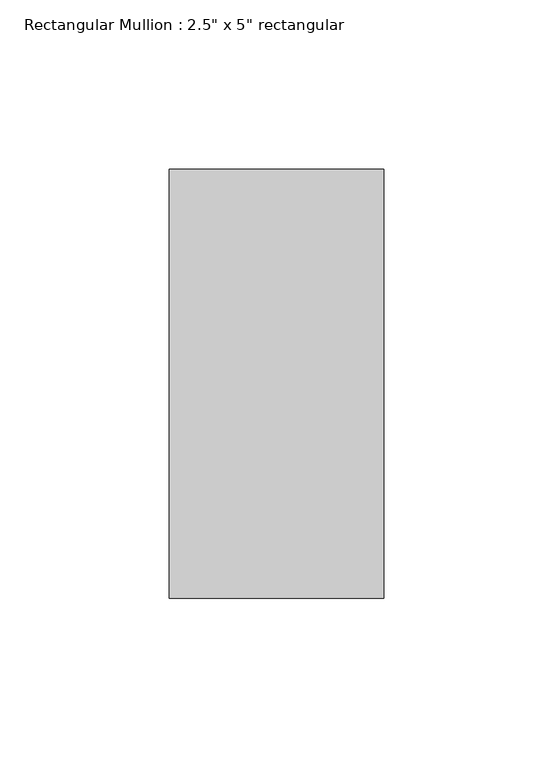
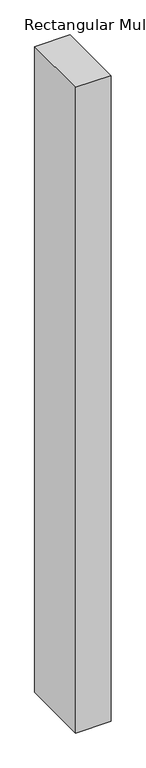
"""IFC4 building model written with IfcOpenShell, lengths in millimetres: member geometry."""

from ifc_helpers import new_model, si_unit, frame, origin, place, context, project, spatial, polyline, outline, extrude, source, transform, mapped, element, save


def member_c962b304(model_context):
    return source(origin(), model_context, "Body", "SweptSolid", [
        extrude(outline(polyline([(0.0, 63.5), (0.0, -63.5), (-63.5, -63.5), (-63.5, 63.5), (0.0, 63.5)])), frame((0.0, 0.0, -1220.2571978), z_axis=(0.0, 0.0, 1.0), x_axis=(1.0, 0.0, 0.0)), (0.0, 0.0, 1.0), 1220.2571978),
    ])


if __name__ == "__main__":
    model = new_model("IFC4")
    model_context = context("Model", 3, world=origin())
    ifc_project = project(units=[si_unit("LENGTHUNIT", "METRE", prefix="MILLI")], contexts=[model_context])
    site = spatial("IfcSite", under=ifc_project)
    building = spatial("IfcBuilding", under=site)
    placement = place(None, origin())
    member_shape = member_c962b304(model_context)
    element("IfcMember", 1, ObjectType="Rectangular Mullion : 2.5\" x 5\" rectangular", at=placement, inside=building, context=model_context, shape_type="MappedRepresentation", body=[
        mapped(member_shape, transform((0.0, 0.0, 0.0), x_axis=(1.0, 0.0, 0.0), y_axis=(0.0, 1.0, 0.0), z_axis=(0.0, 0.0, 1.0))),
    ])
    save(model, "model.ifc")
